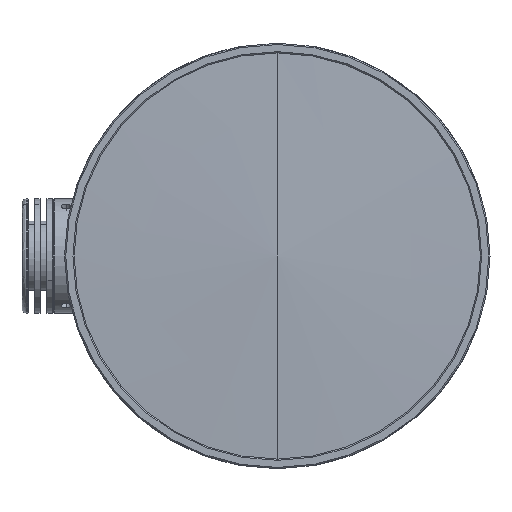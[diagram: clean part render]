
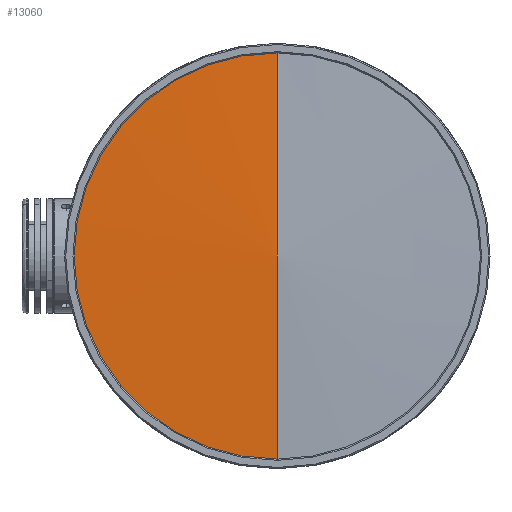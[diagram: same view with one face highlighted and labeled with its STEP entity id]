
A CAD part, left-side view. The second image highlights one B-rep face of the part: STEP entity #13060.
In plain terms, the highlighted conical face has half-angle 88.006 degrees and reference radius 51.17 mm.
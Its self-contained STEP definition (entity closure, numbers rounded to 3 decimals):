
#1071 = CIRCLE ( 'NONE', #8630, 49.65 ) ;
#2021 = FACE_OUTER_BOUND ( 'NONE', #2824, .T. ) ;
#2132 = DIRECTION ( 'NONE',  ( 1., 0., 0. ) ) ;
#2190 = CARTESIAN_POINT ( 'NONE',  ( 1.729, 0., 0. ) ) ;
#2507 = CARTESIAN_POINT ( 'NONE',  ( 1.729, 0., 49.65 ) ) ;
#2824 = EDGE_LOOP ( 'NONE', ( #5733, #12150, #17994 ) ) ;
#2935 = DIRECTION ( 'NONE',  ( 0.035, 0., 0.999 ) ) ;
#2991 = VERTEX_POINT ( 'NONE', #9807 ) ;
#3755 = CARTESIAN_POINT ( 'NONE',  ( 0., 0., 0. ) ) ;
#5083 = EDGE_CURVE ( 'NONE', #12959, #2991, #12908, .T. ) ;
#5243 = EDGE_CURVE ( 'NONE', #12959, #10190, #19193, .T. ) ;
#5733 = ORIENTED_EDGE ( 'NONE', *, *, #5083, .F. ) ;
#5922 = DIRECTION ( 'NONE',  ( 1., 0., 0. ) ) ;
#6475 = CONICAL_SURFACE ( 'NONE', #11137, 51.17, 1.536 ) ;
#7244 = DIRECTION ( 'NONE',  ( 0., 0., -1. ) ) ;
#8273 = VECTOR ( 'NONE', #15620, 1000. ) ;
#8630 = AXIS2_PLACEMENT_3D ( 'NONE', #2190, #2132, #9708 ) ;
#9403 = VECTOR ( 'NONE', #2935, 1000. ) ;
#9708 = DIRECTION ( 'NONE',  ( 0., 0., -1. ) ) ;
#9807 = CARTESIAN_POINT ( 'NONE',  ( 1.729, 0., -49.65 ) ) ;
#10190 = VERTEX_POINT ( 'NONE', #2507 ) ;
#11137 = AXIS2_PLACEMENT_3D ( 'NONE', #11720, #5922, #7244 ) ;
#11720 = CARTESIAN_POINT ( 'NONE',  ( 1.782, 0., 0. ) ) ;
#12150 = ORIENTED_EDGE ( 'NONE', *, *, #5243, .T. ) ;
#12900 = EDGE_CURVE ( 'NONE', #2991, #10190, #1071, .T. ) ;
#12908 = LINE ( 'NONE', #15745, #8273 ) ;
#12959 = VERTEX_POINT ( 'NONE', #3755 ) ;
#13060 = ADVANCED_FACE ( 'NONE', ( #2021 ), #6475, .T. ) ;
#15620 = DIRECTION ( 'NONE',  ( 0.035, 0., -0.999 ) ) ;
#15745 = CARTESIAN_POINT ( 'NONE',  ( 1.782, 0., -51.17 ) ) ;
#16207 = CARTESIAN_POINT ( 'NONE',  ( 1.782, 0., 51.17 ) ) ;
#17994 = ORIENTED_EDGE ( 'NONE', *, *, #12900, .F. ) ;
#19193 = LINE ( 'NONE', #16207, #9403 ) ;
